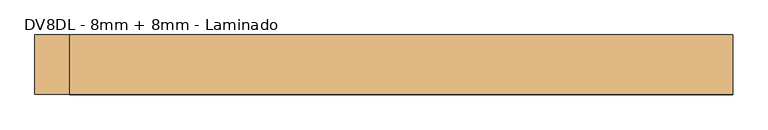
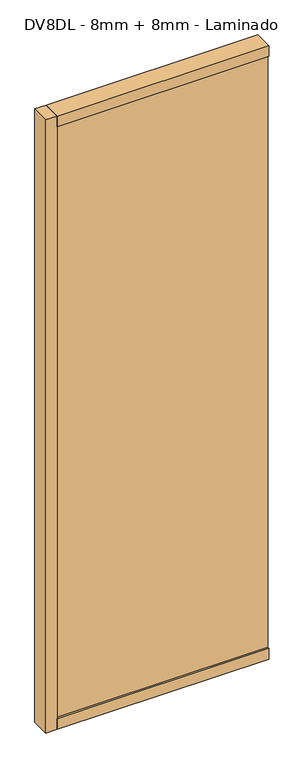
"""IFC4 building model written with IfcOpenShell, lengths in millimetres: door geometry, Mobiliário_Mobiliário de Escritório_Painel Vidro Duplo - DVDT, DVDL e DVXL (Inicial e Final)_Marelli : DV8DL - 8mm + 8mm - Laminado."""

from ifc_helpers import new_model, si_unit, frame, origin, origin_with_axes, place, context, project, spatial, polyline, outline, extrude, source, transform, mapped, element, save


def dv8dl_8mm_8mm_laminado_b832ceb3(model_context):
    return source(origin(), model_context, "Body", "SweptSolid", [
        extrude(outline(polyline([(500.0, 42.5), (500.0, -42.5), (-450.0, -42.5), (-450.0, 42.5), (500.0, 42.5)])), origin_with_axes(), (0.0, 0.0, 1.0), 50.0),
        extrude(outline(polyline([(500.0, 42.5), (500.0, -42.5), (-450.0, -42.5), (-450.0, 42.5), (500.0, 42.5)])), frame((0.0, 0.0, 2850.0), z_axis=(0.0, 0.0, 1.0), x_axis=(1.0, 0.0, 0.0)), (0.0, 0.0, 1.0), 50.0),
        extrude(outline(polyline([(-500.0, -42.5), (-500.0, 42.5), (-450.0, 42.5), (-450.0, -42.5), (-500.0, -42.5)])), origin_with_axes(), (0.0, 0.0, 1.0), 2900.0),
        extrude(outline(polyline([(500.0, 33.1), (500.0, 25.1), (-450.0, 25.1), (-450.0, 33.1), (500.0, 33.1)])), frame((0.0, 0.0, 50.0), z_axis=(0.0, 0.0, 1.0), x_axis=(1.0, 0.0, 0.0)), (0.0, 0.0, 1.0), 2800.0),
        extrude(outline(polyline([(500.0, -33.1), (-450.0, -33.1), (-450.0, -25.1), (500.0, -25.1), (500.0, -33.1)])), frame((0.0, 0.0, 50.0), z_axis=(0.0, 0.0, 1.0), x_axis=(1.0, 0.0, 0.0)), (0.0, 0.0, 1.0), 2800.0),
    ])


if __name__ == "__main__":
    model = new_model("IFC4")
    model_context = context("Model", 3, world=origin())
    ifc_project = project(units=[si_unit("LENGTHUNIT", "METRE", prefix="MILLI")], contexts=[model_context])
    site = spatial("IfcSite", under=ifc_project)
    building = spatial("IfcBuilding", under=site)
    placement = place(None, origin())
    dv8dl_8mm_8mm_laminado_shape = dv8dl_8mm_8mm_laminado_b832ceb3(model_context)
    element("IfcDoor", 1, ObjectType="Mobiliário_Mobiliário de Escritório_Painel Vidro Duplo - DVDT, DVDL e DVXL (Inicial e Final)_Marelli : DV8DL - 8mm + 8mm - Laminado", at=placement, inside=building, context=model_context, shape_type="MappedRepresentation", body=[
        mapped(dv8dl_8mm_8mm_laminado_shape, transform((0.0, 0.0, 0.0), x_axis=(1.0, 0.0, 0.0), y_axis=(0.0, 1.0, 0.0), z_axis=(0.0, 0.0, 1.0))),
    ])
    save(model, "model.ifc")
